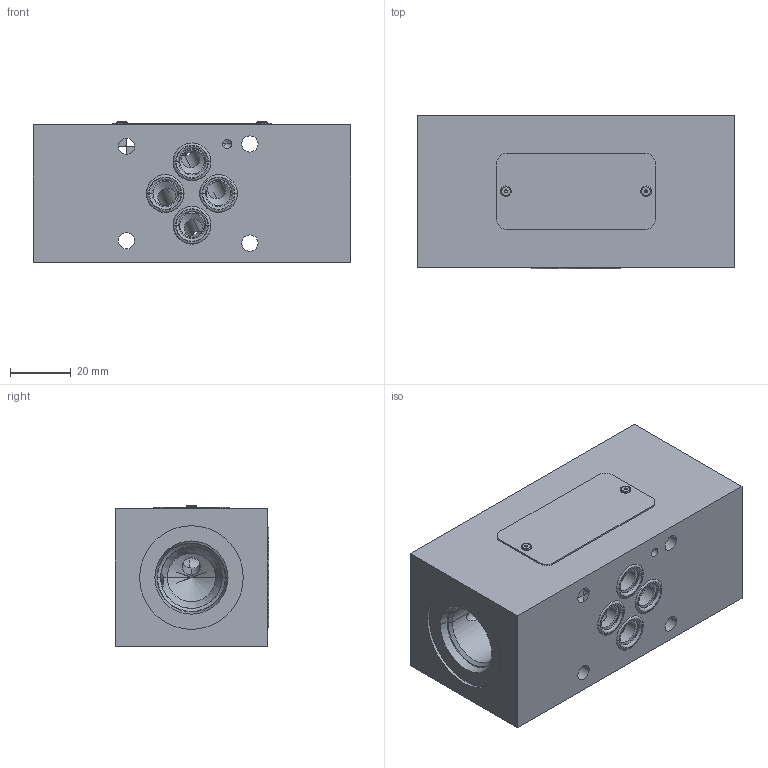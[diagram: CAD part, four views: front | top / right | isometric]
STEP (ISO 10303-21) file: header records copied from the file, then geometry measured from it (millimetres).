
FILE_DESCRIPTION((''),'2;1');
FILE_NAME('28064300_ASM','2023-10-12T',('l.soukupova'),(''),'PRO/ENGINEER BY PARAMETRIC TECHNOLOGY CORPORATION, 2015440','PRO/ENGINEER BY PARAMETRIC TECHNOLOGY CORPORATION, 2015440','');
FILE_SCHEMA(('AUTOMOTIVE_DESIGN { 1 0 10303 214 1 1 1 1 }'));
Length unit declared in the file: millimetre
Products named in the file (8): 27981801; RD_LABEL_25X52_159703; ORAR00012_201524_AF40; ORAR00012_201524_AF41; ORAR00012_201524_AF42; ORAR00012_201524_AF43; AF_1932_16485; 28064300_ASM
Assembly tree (8 placements, depth 2):
  28064300_ASM
    27981801
    RD_LABEL_25X52_159703
    ORAR00012_201524_AF40
    ORAR00012_201524_AF41
    ORAR00012_201524_AF42
    ORAR00012_201524_AF43
    AF_1932_16485  x2
Bounding box: 104 x 50.38 x 46 mm (x, y, z)
Volume: 198139.7 mm3; surface area: 42480.4 mm2
Topology: 8 solids, 12 shells, 228 faces, 719 edges, 601 vertices
Faces by surface type: cylinder 116, cone 40, plane 36, torus 36
Entity records: 14024 total; most frequent: CARTESIAN_POINT 3521, DIRECTION 1419, ORIENTED_EDGE 1054, PRESENTATION_STYLE_ASSIGNMENT 884, STYLED_ITEM 755, CURVE_STYLE 745, AXIS2_PLACEMENT_3D 571, EDGE_CURVE 535
